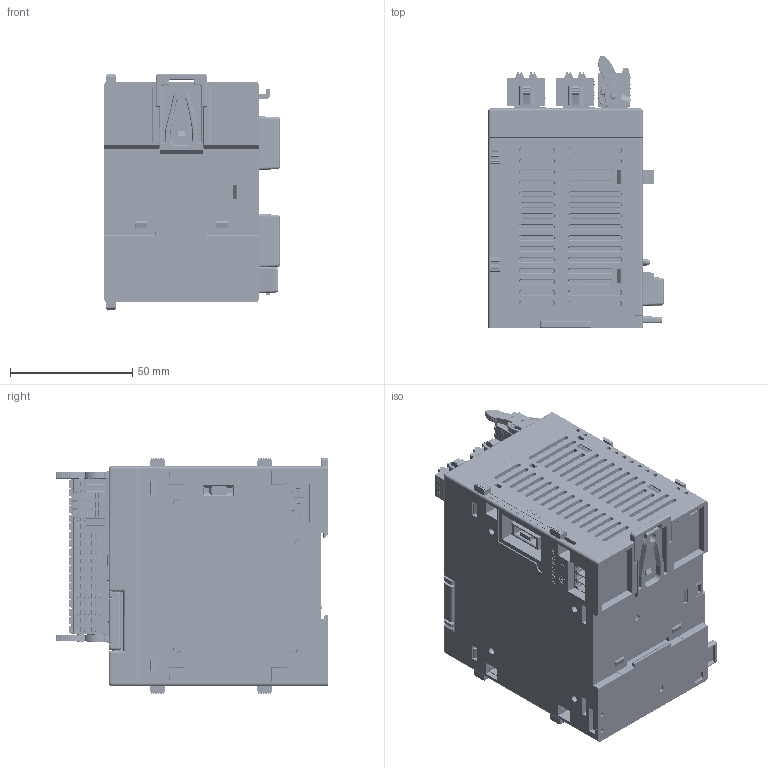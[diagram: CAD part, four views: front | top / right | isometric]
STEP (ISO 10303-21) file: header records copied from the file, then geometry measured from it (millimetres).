
FILE_DESCRIPTION((''),'2;1');
FILE_NAME('XCPU-MAIN-BODY-DOWN-COVER','2024-04-01T23:05:09',('Jacky Chang'),(''),'CREO PARAMETRIC BY PTC INC, 2021284','CREO PARAMETRIC BY PTC INC, 2021284','');
FILE_SCHEMA(('CONFIG_CONTROL_DESIGN','SHAPE_APPEARANCE_LAYERS_GROUPS'));
Products named in the file (1): XCPU-MAIN-BODY-DOWN-COVER
Bounding box: 71.9 x 111.6 x 96.6 mm (x, y, z)
Volume: 502389 mm3; surface area: 92464 mm2
Topology: 1 solids, 23 shells, 14032 faces, 39134 edges, 25495 vertices
Faces by surface type: plane 8082, cylinder 3955, bspline 730, torus 617, cone 381, extrusion 156, sphere 111
Entity records: 616066 total; most frequent: CARTESIAN_POINT 131898, ORIENTED_EDGE 78084, DIRECTION 69141, PRESENTATION_STYLE_ASSIGNMENT 40407, STYLED_ITEM 39043, CURVE_STYLE 39042, EDGE_CURVE 39042, VECTOR 26553
